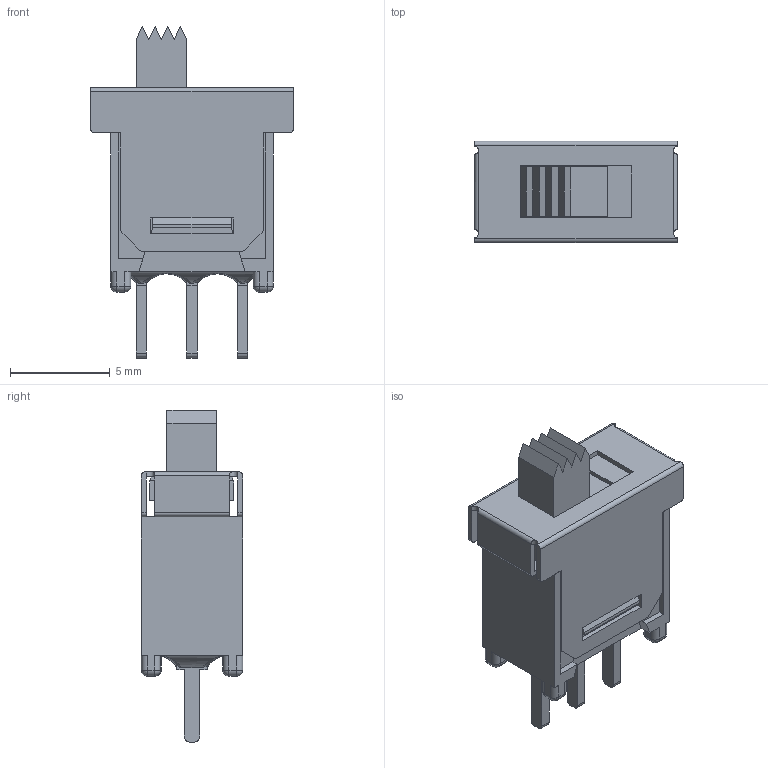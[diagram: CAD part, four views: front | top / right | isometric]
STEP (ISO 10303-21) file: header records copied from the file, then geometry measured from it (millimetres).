
FILE_DESCRIPTION(/* description */ (''),/* implementation_level */ '2;1');
FILE_NAME(/* name */ 'P:\E-Switch Secure\3D_MODELS_STP_FORMAT\500ASSPxM2xE.stp',/* time_stamp */ '2020-11-03T14:05:52-06:00',/* author */ ('mwilliams'),/* organization */ (''),/* preprocessor_version */ 'ST-DEVELOPER v18',/* originating_system */ 'Autodesk Inventor 2020',/* authorisation */ '');
FILE_SCHEMA (('AUTOMOTIVE_DESIGN { 1 0 10303 214 3 1 1 }'));
Length unit declared in the file: inch
Products named in the file (1): T551300_Shrinkwrap_1
Bounding box: 10.16 x 5.08 x 16.62 mm (x, y, z)
Volume: 225.7 mm3; surface area: 1030.4 mm2
Topology: 5 solids, 5 shells, 263 faces, 693 edges, 442 vertices
Faces by surface type: plane 173, cylinder 66, sphere 16, bspline 8
Entity records: 8624 total; most frequent: CARTESIAN_POINT 2093, ORIENTED_EDGE 1386, DIRECTION 1283, EDGE_CURVE 693, LINE 523, VECTOR 523, VERTEX_POINT 442, AXIS2_PLACEMENT_3D 380
